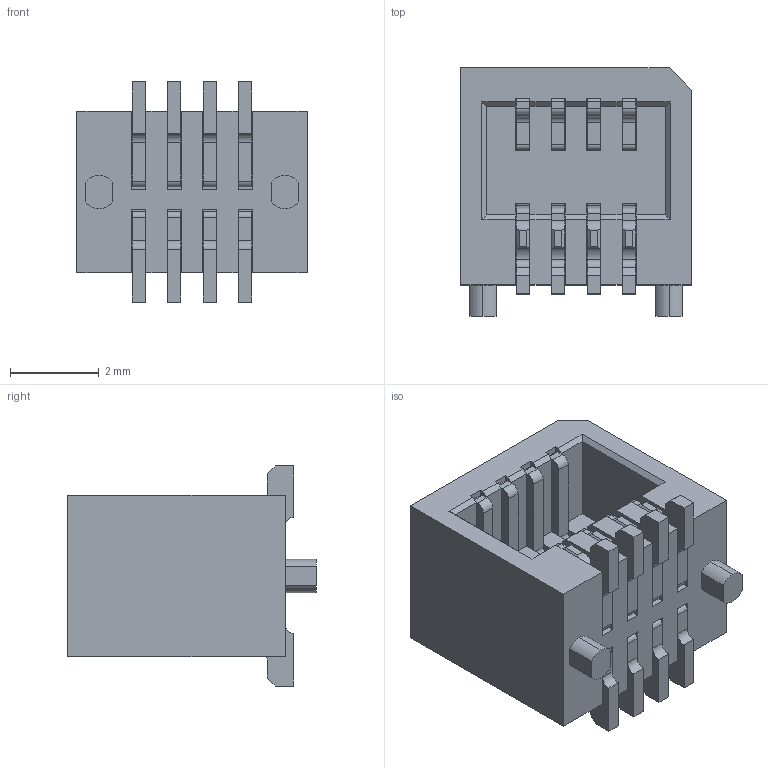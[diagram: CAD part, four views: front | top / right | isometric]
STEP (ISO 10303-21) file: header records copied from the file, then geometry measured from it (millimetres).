
FILE_DESCRIPTION (( 'STEP AP203' ), '1' );
FILE_NAME ('HC-PBB08-1-08-F-S-H5.1-XX-R-P-06 (BTB0.8 单槽 母座 立式侧插 座高5.1mm 编带 带柱)-HCTL.STEP', '2025-12-09T08:31:53', ( '' ), ( '' ), 'SwSTEP 2.0', 'SolidWorks 2025', '' );
FILE_SCHEMA (( 'CONFIG_CONTROL_DESIGN' ));
Length unit declared in the file: millimetre
Products named in the file (1): HC-PBB08-1-08-F-S-H5.1-XX-R-P-06 (BTB0.8 单槽 母座 立式侧插 座高5.1mm 编带 带柱)-HCTL
Bounding box: 5.2 x 5.6 x 4.97 mm (x, y, z)
Volume: 73 mm3; surface area: 277.9 mm2
Topology: 1 solids, 1 shells, 303 faces, 921 edges, 610 vertices
Faces by surface type: plane 237, cylinder 66
Entity records: 10320 total; most frequent: CARTESIAN_POINT 1883, ORIENTED_EDGE 1842, DIRECTION 1645, EDGE_CURVE 921, LINE 773, VECTOR 773, VERTEX_POINT 610, AXIS2_PLACEMENT_3D 436
